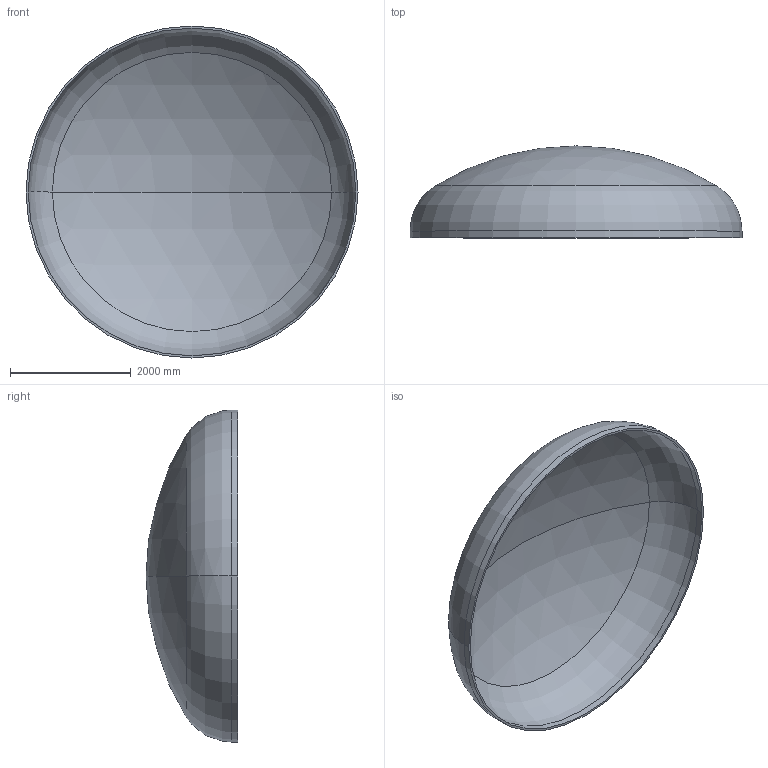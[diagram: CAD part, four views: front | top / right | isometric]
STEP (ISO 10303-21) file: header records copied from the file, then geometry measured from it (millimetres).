
FILE_DESCRIPTION (( 'STEP AP203' ), '1' );
FILE_NAME ('DIN 28013 Korbbogenform_-_Boden DIN 28013 - 5500 x 110 - I - s=36.step', '2016-07-04T10:34:00', ( '' ), ( '' ), 'SwSTEP 2.0', 'SolidWorks 2013', '' );
FILE_SCHEMA (( 'CONFIG_CONTROL_DESIGN' ));
Length unit declared in the file: millimetre
Products named in the file (1): DIN 28013 Korbbogenform_-_Boden DIN 28013 - 5500 x 110 - I - s=36
Bounding box: 5500 x 1521.95 x 5500 mm (x, y, z)
Volume: 1241823454.6 mm3; surface area: 69610843.3 mm2
Topology: 1 solids, 1 shells, 13 faces, 24 edges, 14 vertices
Faces by surface type: torus 4, cylinder 4, sphere 4, plane 1
Entity records: 407 total; most frequent: DIRECTION 72, CARTESIAN_POINT 52, ORIENTED_EDGE 48, AXIS2_PLACEMENT_3D 34, EDGE_CURVE 24, CIRCLE 20, EDGE_LOOP 14, VERTEX_POINT 14
